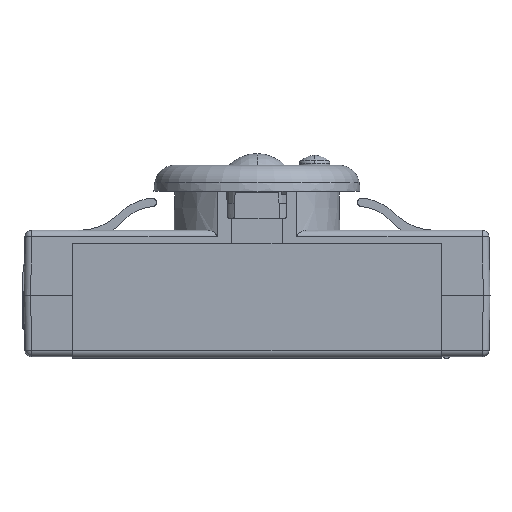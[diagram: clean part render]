
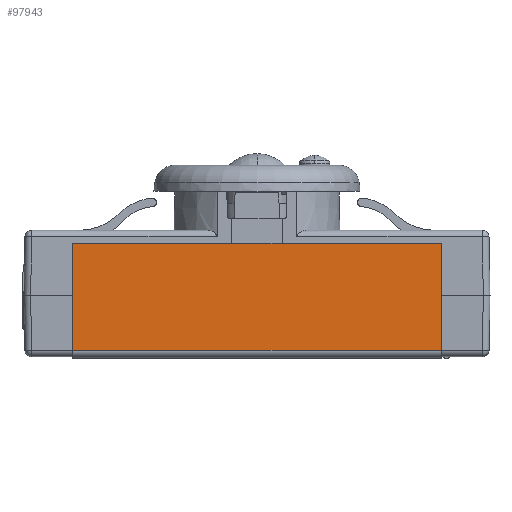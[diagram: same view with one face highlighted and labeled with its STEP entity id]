
A CAD part, front view. The second image highlights one B-rep face of the part: STEP entity #97943.
In plain terms, the highlighted planar face has unit normal (0, -1, -0.018) as drawn and (-1, 0, -0.017) by its records, which use the part's own axes.
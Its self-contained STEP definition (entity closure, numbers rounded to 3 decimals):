
#2017 = LINE ( 'NONE', #63972, #55842 ) ;
#2242 = DIRECTION ( 'NONE',  ( -0.017, 0., 1. ) ) ;
#9021 = VECTOR ( 'NONE', #60109, 1000. ) ;
#11111 = VERTEX_POINT ( 'NONE', #101313 ) ;
#12412 = VERTEX_POINT ( 'NONE', #127197 ) ;
#15437 = VERTEX_POINT ( 'NONE', #86845 ) ;
#16829 = LINE ( 'NONE', #123290, #121134 ) ;
#34626 = ORIENTED_EDGE ( 'NONE', *, *, #108648, .F. ) ;
#36865 = CARTESIAN_POINT ( 'NONE',  ( -11.232, -27.5, 1.233 ) ) ;
#43376 = VERTEX_POINT ( 'NONE', #88561 ) ;
#46194 = ORIENTED_EDGE ( 'NONE', *, *, #74088, .F. ) ;
#47087 = PLANE ( 'NONE',  #110256 ) ;
#49917 = CARTESIAN_POINT ( 'NONE',  ( -11.232, -27.5, 1.233 ) ) ;
#55842 = VECTOR ( 'NONE', #113747, 1000. ) ;
#57260 = DIRECTION ( 'NONE',  ( -0.017, 0., 1. ) ) ;
#60109 = DIRECTION ( 'NONE',  ( 0., 1., 0. ) ) ;
#63972 = CARTESIAN_POINT ( 'NONE',  ( -11.509, -27.5, 17.148 ) ) ;
#74088 = EDGE_CURVE ( 'NONE', #15437, #11111, #90854, .T. ) ;
#74270 = FACE_OUTER_BOUND ( 'NONE', #101314, .T. ) ;
#82179 = DIRECTION ( 'NONE',  ( -0.017, 0., 1. ) ) ;
#86845 = CARTESIAN_POINT ( 'NONE',  ( -11.232, 27.5, 1.233 ) ) ;
#88561 = CARTESIAN_POINT ( 'NONE',  ( -11.232, -27.5, 1.233 ) ) ;
#90854 = LINE ( 'NONE', #122233, #114446 ) ;
#97943 = ADVANCED_FACE ( 'NONE', ( #74270 ), #47087, .T. ) ;
#101313 = CARTESIAN_POINT ( 'NONE',  ( -11.509, 27.5, 17.148 ) ) ;
#101314 = EDGE_LOOP ( 'NONE', ( #46194, #34626, #113189, #126084 ) ) ;
#108648 = EDGE_CURVE ( 'NONE', #43376, #15437, #113367, .T. ) ;
#110256 = AXIS2_PLACEMENT_3D ( 'NONE', #36865, #117739, #57260 ) ;
#113189 = ORIENTED_EDGE ( 'NONE', *, *, #126418, .T. ) ;
#113367 = LINE ( 'NONE', #49917, #9021 ) ;
#113747 = DIRECTION ( 'NONE',  ( 0., 1., 0. ) ) ;
#114446 = VECTOR ( 'NONE', #82179, 1000. ) ;
#117739 = DIRECTION ( 'NONE',  ( -1., 0., -0.017 ) ) ;
#121134 = VECTOR ( 'NONE', #2242, 1000. ) ;
#122233 = CARTESIAN_POINT ( 'NONE',  ( -11.232, 27.5, 1.233 ) ) ;
#123290 = CARTESIAN_POINT ( 'NONE',  ( -11.232, -27.5, 1.233 ) ) ;
#124688 = EDGE_CURVE ( 'NONE', #12412, #11111, #2017, .T. ) ;
#126084 = ORIENTED_EDGE ( 'NONE', *, *, #124688, .T. ) ;
#126418 = EDGE_CURVE ( 'NONE', #43376, #12412, #16829, .T. ) ;
#127197 = CARTESIAN_POINT ( 'NONE',  ( -11.509, -27.5, 17.148 ) ) ;
